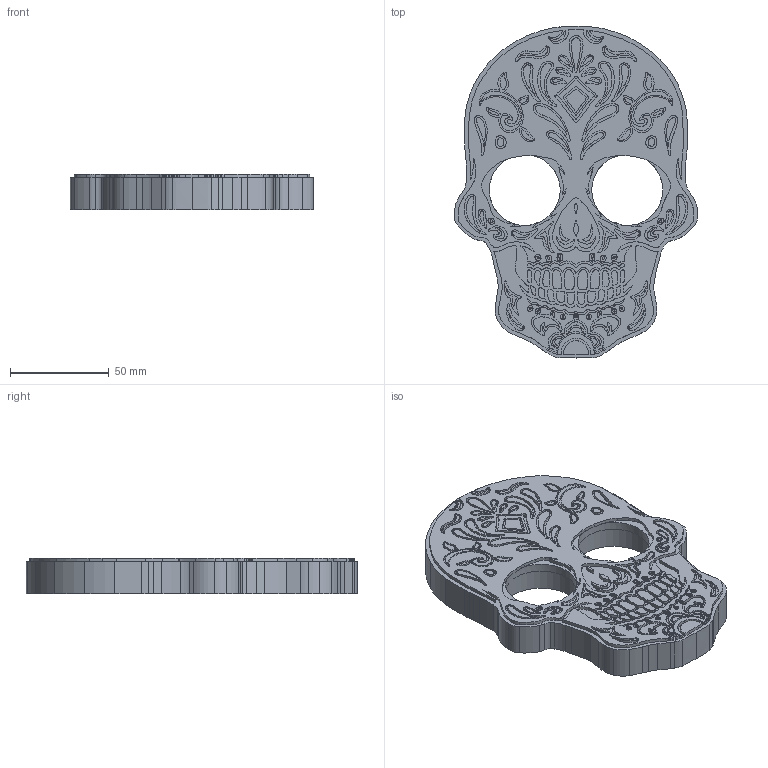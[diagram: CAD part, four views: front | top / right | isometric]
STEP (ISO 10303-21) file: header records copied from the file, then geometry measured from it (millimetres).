
FILE_DESCRIPTION(/* description */ (''),/* implementation_level */ '2;1');
FILE_NAME(/* name */ 'C:\Users\sab\Documents\CNC Files\vecteezy_vector-mexican-skulls-with-patterns_11737870_318\Sugar Skull Project v01.stp',/* time_stamp */ '2025-10-11T13:14:31+11:00',/* author */ ('sab'),/* organization */ (''),/* preprocessor_version */ 'ST-DEVELOPER v17',/* originating_system */ 'Autodesk Inventor 2019',/* authorisation */ '');
FILE_SCHEMA (('AUTOMOTIVE_DESIGN { 1 0 10303 214 3 1 1 }'));
Products named in the file (1): Part2 scalled
Bounding box: 123.27 x 168.3 x 17.95 mm (x, y, z)
Volume: 222300.4 mm3; surface area: 49339.2 mm2
Topology: 1 solids, 1 shells, 2148 faces, 5926 edges, 3948 vertices
Faces by surface type: bspline 1746, plane 398, cylinder 4
Full cylindrical faces by diameter (mm): 36 x2
Entity records: 77569 total; most frequent: CARTESIAN_POINT 34745, ORIENTED_EDGE 11852, EDGE_CURVE 5926, VERTEX_POINT 3948, B_SPLINE_CURVE_WITH_KNOTS 3500, DIRECTION 3248, LINE 2410, VECTOR 2410
